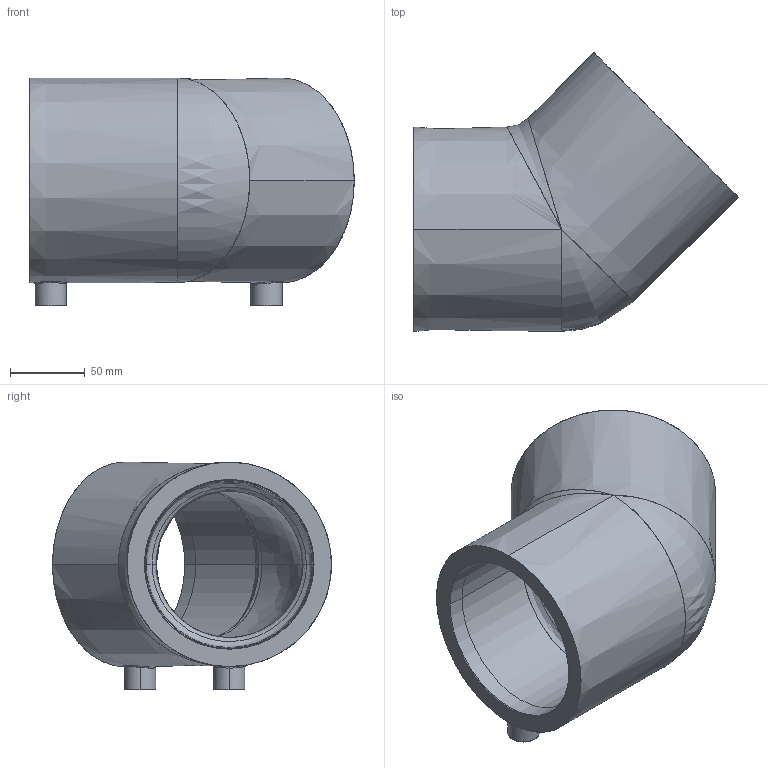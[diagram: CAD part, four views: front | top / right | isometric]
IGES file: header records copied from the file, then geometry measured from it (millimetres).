
Start section: SolidWorks IGES file using analytic representation for surfaces
Global section: file name: G:\Group\Marketing\Public\CAD Offering - Website\6. 45deg elbow\EBKHA110X45.IGS; native system: SolidWorks 2017; preprocessor: SolidWorks 2017; author: hwegrzynska; date: 180920.134320; units: millimetre
Bounding box: 217.44 x 186.94 x 152.6 mm (x, y, z)
Surface area: 166430.1 mm2 (no closed solid volume)
Topology: 0 solids, 0 shells, 66 faces, 1223 edges, 1218 vertices
Faces by surface type: revolution 40, bspline 26
